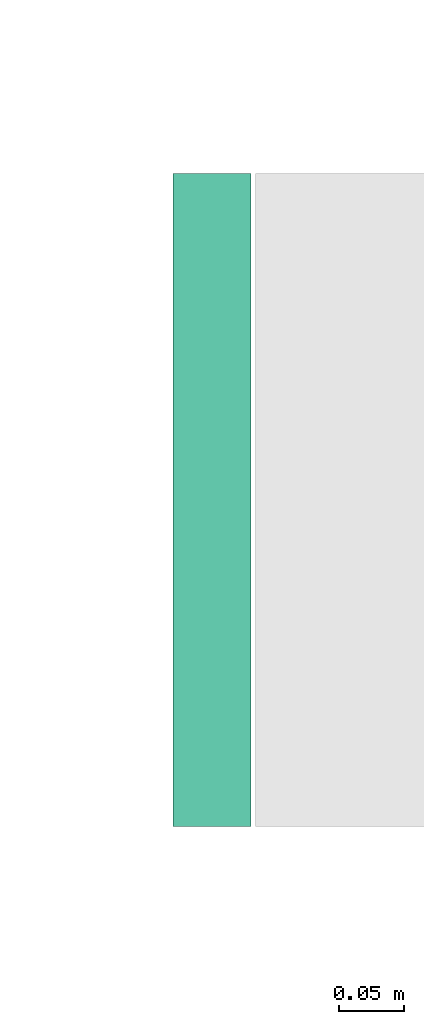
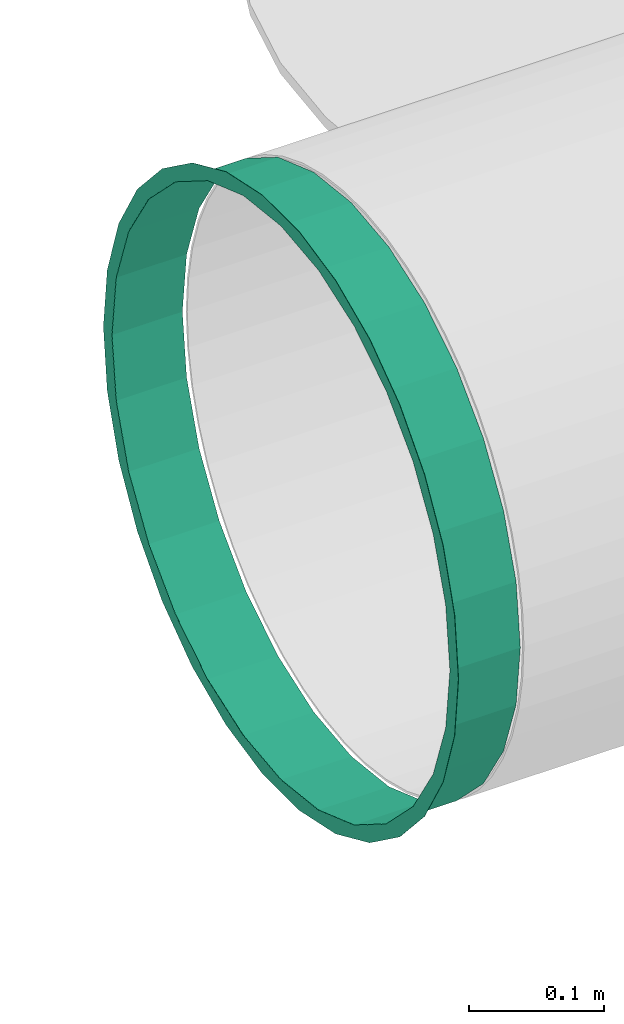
# One storey, part 5 of 31: 1 flow terminal.
"""IFC2X3 building model written with IfcOpenShell, lengths in millimetres."""

from ifc_helpers import new_model, entity, si_unit, converted_unit, derived_unit, direction, frame, origin_with_axes, place, context, subcontext, project, spatial, open_shell, surface_model, source, transform, mapped, type_object, element, save


model = new_model("IFC2X3")

# Units and contexts
model_context = context("Model", 3, precision=0.01, world=frame((0.0, 4.29681676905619e-09, 0.0)), true_north=direction((4.01073788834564e-13, 1.0)))
plan_context = context("Plan", 3, precision=0.01, world=frame((0.0, 4.29681676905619e-09, 0.0)), true_north=direction((4.01073788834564e-13, 1.0)))
body_context = subcontext(model_context, "Body", "Model", "MODEL_VIEW")
ifc_project = project(units=[converted_unit("PLANEANGLEUNIT", "DEGREE", entity("IfcPositiveLengthMeasure", 0.0174532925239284), si_unit("PLANEANGLEUNIT", "RADIAN"), dimensions=[0, 0, 0, 0, 0, 0, 0]), si_unit("AREAUNIT", "SQUARE_METRE"), si_unit("LENGTHUNIT", "METRE", prefix="MILLI"), si_unit("MASSUNIT", "GRAM", prefix="KILO"), si_unit("POWERUNIT", "WATT"), si_unit("PRESSUREUNIT", "PASCAL", prefix="KILO"), si_unit("FORCEUNIT", "NEWTON", prefix="KILO"), si_unit("ELECTRICVOLTAGEUNIT", "VOLT"), si_unit("ELECTRICCURRENTUNIT", "AMPERE"), si_unit("THERMODYNAMICTEMPERATUREUNIT", "DEGREE_CELSIUS"), si_unit("TIMEUNIT", "SECOND"), si_unit("VOLUMEUNIT", "CUBIC_METRE"), derived_unit("LINEARVELOCITYUNIT", [(si_unit("LENGTHUNIT", "METRE"), 1), (si_unit("TIMEUNIT", "SECOND"), -1)]), derived_unit("VOLUMETRICFLOWRATEUNIT", [(si_unit("VOLUMEUNIT", "CUBIC_METRE"), 1), (si_unit("TIMEUNIT", "SECOND"), -1)]), derived_unit("THERMALTRANSMITTANCEUNIT", [(si_unit("POWERUNIT", "WATT"), 1), (si_unit("THERMODYNAMICTEMPERATUREUNIT", "KELVIN"), -1), (si_unit("AREAUNIT", "SQUARE_METRE"), -1)]), derived_unit("SOUNDPRESSUREUNIT", [(si_unit("PRESSUREUNIT", "PASCAL"), 1)])], contexts=[model_context, plan_context])

# Site, building, storey
site_placement = place(None, frame((0.0, -4.29681676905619e-09, 0.0), z_axis=(0.0, 0.0, 1.0), x_axis=(1.0, 0.0, 0.0)))
site = spatial("IfcSite", under=ifc_project, at=site_placement, CompositionType="ELEMENT")
building_placement = place(site_placement, frame((0.0, 4.29681676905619e-09, 0.0), z_axis=(0.0, 0.0, 1.0), x_axis=(1.0, 0.0, 0.0)))
building = spatial("IfcBuilding", under=site, at=building_placement, Name="mc-building", CompositionType="ELEMENT")
storey_placement = place(building_placement, frame((0.0, 0.0, 210900.0), z_axis=(0.0, 0.0, 1.0), x_axis=(1.0, 0.0, 0.0)))
storey = spatial("IfcBuildingStorey", under=building, at=storey_placement, Name="Nivå F", CompositionType="ELEMENT", Elevation=210900.0)

# Flow terminal
air_terminal_type = type_object("IfcAirTerminalType", Name="EKO-NR-500-1-3", PredefinedType="NOTDEFINED")
shared_shape = source(origin_with_axes(), body_context, "Body", "SurfaceModel", [
    surface_model("IfcShellBasedSurfaceModel", [(60.1, -131.25, 227.33167), (60.1, -175.64678, 195.07552), (60.1, -155.87244, 195.45787), (60.1, -195.45787, 155.87244), (60.1, -108.47093, 225.24221), (60.1, -27.43872, 261.06199), (60.1, -81.11696, 249.65233), (60.1, -55.63023, 243.73198), (60.1, 0.0, 250.0), (60.1, -243.73198, 55.63023), (60.1, -256.76374, 54.57682), (60.1, -250.0, 0.0), (60.1, -239.80568, 106.76836), (60.1, -262.5, 0.0), (60.1, -212.36696, 154.29363), (60.1, -225.24221, 108.47093), (60.1, 27.43872, 261.06199), (60.1, 55.63023, 243.73198), (60.1, 81.11696, 249.65233), (60.1, 131.25, 227.33167), (60.1, 108.47093, 225.24221), (60.1, 155.87244, 195.45787), (60.1, 175.64678, 195.07552), (60.1, 195.45787, 155.87244), (60.1, 212.36696, 154.29363), (60.1, 225.24221, 108.47093), (60.1, 239.80568, 106.76836), (60.1, 243.73198, 55.63023), (60.1, 256.76374, 54.57682), (60.1, 250.0, 0.0), (60.1, 262.5, 0.0), (60.1, -256.76374, -54.57682), (60.1, -243.73198, -55.63023), (60.1, -239.80568, -106.76836), (60.1, -225.24221, -108.47093), (60.1, -212.36696, -154.29363), (60.1, -195.45787, -155.87244), (60.1, -175.64678, -195.07552), (60.1, -131.25, -227.33167), (60.1, -155.87244, -195.45787), (60.1, -108.47093, -225.24221), (60.1, -55.63023, -243.73198), (60.1, -81.11696, -249.65233), (60.1, -27.43872, -261.06199), (60.1, 0.0, -250.0), (60.1, 225.24221, -108.47093), (60.1, 195.45787, -155.87244), (60.1, 212.36696, -154.29363), (60.1, 175.64678, -195.07552), (60.1, 239.80568, -106.76836), (60.1, 256.76374, -54.57682), (60.1, 243.73198, -55.63023), (60.1, 55.63023, -243.73198), (60.1, 81.11696, -249.65233), (60.1, 108.47093, -225.24221), (60.1, 27.43872, -261.06199), (60.1, 155.87244, -195.45787), (60.1, 131.25, -227.33167), (59.9, -131.25, -227.33167), (59.9, -175.64678, -195.07552), (59.9, -155.87244, -195.45787), (59.9, -195.45787, -155.87244), (59.9, -108.47093, -225.24221), (59.9, -27.43872, -261.06199), (59.9, -81.11696, -249.65233), (59.9, -55.63023, -243.73198), (59.9, 0.0, -250.0), (59.9, -243.73198, -55.63023), (59.9, -256.76374, -54.57682), (59.9, -250.0, 0.0), (59.9, -239.80568, -106.76836), (59.9, -262.5, 0.0), (59.9, -212.36696, -154.29363), (59.9, -225.24221, -108.47093), (59.9, 27.43872, -261.06199), (59.9, 55.63023, -243.73198), (59.9, 81.11696, -249.65233), (59.9, 131.25, -227.33167), (59.9, 108.47093, -225.24221), (59.9, 155.87244, -195.45787), (59.9, 175.64678, -195.07552), (59.9, 195.45787, -155.87244), (59.9, 212.36696, -154.29363), (59.9, 225.24221, -108.47093), (59.9, 239.80568, -106.76836), (59.9, 243.73198, -55.63023), (59.9, 256.76374, -54.57682), (59.9, 250.0, 0.0), (59.9, 262.5, 0.0), (59.9, -256.76374, 54.57682), (59.9, -243.73198, 55.63023), (59.9, -239.80568, 106.76836), (59.9, -225.24221, 108.47093), (59.9, -212.36696, 154.29363), (59.9, -195.45787, 155.87244), (59.9, -175.64678, 195.07552), (59.9, -131.25, 227.33167), (59.9, -155.87244, 195.45787), (59.9, -108.47093, 225.24221), (59.9, -55.63023, 243.73198), (59.9, -81.11696, 249.65233), (59.9, -27.43872, 261.06199), (59.9, 0.0, 250.0), (59.9, 225.24221, 108.47093), (59.9, 195.45787, 155.87244), (59.9, 212.36696, 154.29363), (59.9, 175.64678, 195.07552), (59.9, 239.80568, 106.76836), (59.9, 256.76374, 54.57682), (59.9, 243.73198, 55.63023), (59.9, 55.63023, 243.73198), (59.9, 81.11696, 249.65233), (59.9, 108.47093, 225.24221), (59.9, 27.43872, 261.06199), (59.9, 155.87244, 195.45787), (59.9, 131.25, 227.33167), (60.0, 108.38415, -225.06203), (60.0, 108.47093, -225.24221), (60.0, 155.87244, -195.45787), (60.0, 155.74776, -195.30151), (60.0, 195.45787, -155.87244), (60.0, 0.0, -249.8), (60.0, 55.63023, -243.73198), (60.0, 55.58573, -243.53699), (60.0, 0.0, -250.0), (60.0, 243.73198, -55.63023), (60.0, 249.8, 0.0), (60.0, 243.53699, -55.58573), (60.0, 250.0, 0.0), (60.0, 225.24221, -108.47093), (60.0, 195.30151, -155.74776), (60.0, 225.06203, -108.38415), (60.0, -55.58573, -243.53699), (60.0, -55.63023, -243.73198), (60.0, -108.38415, -225.06203), (60.0, -108.47093, -225.24221), (60.0, -155.74776, -195.30151), (60.0, -155.87244, -195.45787), (60.0, -195.30151, -155.74776), (60.0, -195.45787, -155.87244), (60.0, -225.06203, -108.38415), (60.0, -225.24221, -108.47093), (60.0, -243.73198, -55.63023), (60.0, -243.53699, -55.58573), (60.0, -249.8, 0.0), (60.0, -250.0, 0.0), (60.0, 243.73198, 55.63023), (60.0, 243.53699, 55.58573), (60.0, 225.06203, 108.38415), (60.0, 225.24221, 108.47093), (60.0, 195.30151, 155.74776), (60.0, 195.45787, 155.87244), (60.0, 155.74776, 195.30151), (60.0, 108.38415, 225.06203), (60.0, 155.87244, 195.45787), (60.0, 108.47093, 225.24221), (60.0, 55.58573, 243.53699), (60.0, 55.63023, 243.73198), (60.0, 0.0, 249.8), (60.0, 0.0, 250.0), (60.0, -225.24221, 108.47093), (60.0, -225.06203, 108.38415), (60.0, -195.30151, 155.74776), (60.0, -195.45787, 155.87244), (60.0, -155.87244, 195.45787), (60.0, -243.53699, 55.58573), (60.0, -243.73198, 55.63023), (60.0, -55.58573, 243.53699), (60.0, -55.63023, 243.73198), (60.0, -108.38415, 225.06203), (60.0, -155.74776, 195.30151), (60.0, -108.47093, 225.24221), (0.0, 108.38415, 225.06203), (0.0, 108.47093, 225.24221), (0.0, 155.87244, 195.45787), (0.0, 155.74776, 195.30151), (0.0, 195.45787, 155.87244), (0.0, 0.0, 249.8), (0.0, 55.63023, 243.73198), (0.0, 55.58573, 243.53699), (0.0, 0.0, 250.0), (0.0, 243.73198, 55.63023), (0.0, 249.8, 0.0), (0.0, 243.53699, 55.58573), (0.0, 250.0, 0.0), (0.0, 225.24221, 108.47093), (0.0, 195.30151, 155.74776), (0.0, 225.06203, 108.38415), (0.0, -55.58573, 243.53699), (0.0, -55.63023, 243.73198), (0.0, -108.38415, 225.06203), (0.0, -108.47093, 225.24221), (0.0, -155.74776, 195.30151), (0.0, -155.87244, 195.45787), (0.0, -195.30151, 155.74776), (0.0, -195.45787, 155.87244), (0.0, -225.06203, 108.38415), (0.0, -225.24221, 108.47093), (0.0, -243.73198, 55.63023), (0.0, -243.53699, 55.58573), (0.0, -249.8, 0.0), (0.0, -250.0, 0.0), (0.0, 243.73198, -55.63023), (0.0, 243.53699, -55.58573), (0.0, 225.06203, -108.38415), (0.0, 225.24221, -108.47093), (0.0, 195.30151, -155.74776), (0.0, 195.45787, -155.87244), (0.0, 155.74776, -195.30151), (0.0, 108.38415, -225.06203), (0.0, 155.87244, -195.45787), (0.0, 108.47093, -225.24221), (0.0, 55.58573, -243.53699), (0.0, 55.63023, -243.73198), (0.0, 0.0, -249.8), (0.0, 0.0, -250.0), (0.0, -225.24221, -108.47093), (0.0, -225.06203, -108.38415), (0.0, -195.30151, -155.74776), (0.0, -195.45787, -155.87244), (0.0, -155.87244, -195.45787), (0.0, -243.53699, -55.58573), (0.0, -243.73198, -55.63023), (0.0, -55.58573, -243.53699), (0.0, -55.63023, -243.73198), (0.0, -108.38415, -225.06203), (0.0, -155.74776, -195.30151), (0.0, -108.47093, -225.24221)], [open_shell([[[0, 1, 2]], [[2, 1, 3]], [[0, 2, 4]], [[5, 6, 7]], [[4, 7, 6]], [[6, 0, 4]], [[8, 5, 7]], [[9, 10, 11]], [[10, 9, 12]], [[11, 10, 13]], [[3, 14, 15]], [[14, 3, 1]], [[15, 12, 9]], [[12, 15, 14]], [[16, 8, 17]], [[8, 16, 5]], [[16, 17, 18]], [[19, 18, 20]], [[20, 21, 19]], [[18, 17, 20]], [[19, 21, 22]], [[22, 23, 24]], [[22, 21, 23]], [[24, 25, 26]], [[25, 24, 23]], [[26, 27, 28]], [[27, 26, 25]], [[28, 29, 30]], [[29, 28, 27]], [[31, 32, 11]], [[32, 31, 33]], [[33, 34, 32]], [[34, 33, 35]], [[35, 36, 34]], [[36, 35, 37]], [[37, 38, 39]], [[39, 38, 40]], [[37, 39, 36]], [[41, 40, 42]], [[42, 43, 41]], [[40, 38, 42]], [[44, 41, 43]], [[45, 46, 47]], [[47, 46, 48]], [[45, 47, 49]], [[30, 29, 50]], [[51, 49, 50]], [[49, 51, 45]], [[29, 51, 50]], [[52, 53, 54]], [[53, 52, 55]], [[44, 55, 52]], [[55, 44, 43]], [[48, 56, 57]], [[56, 48, 46]], [[54, 57, 56]], [[57, 54, 53]], [[11, 13, 31]], [[58, 59, 60]], [[60, 59, 61]], [[58, 60, 62]], [[63, 64, 65]], [[62, 65, 64]], [[64, 58, 62]], [[66, 63, 65]], [[67, 68, 69]], [[68, 67, 70]], [[69, 68, 71]], [[61, 72, 73]], [[72, 61, 59]], [[73, 70, 67]], [[70, 73, 72]], [[74, 66, 75]], [[66, 74, 63]], [[74, 75, 76]], [[77, 76, 78]], [[78, 79, 77]], [[76, 75, 78]], [[77, 79, 80]], [[80, 81, 82]], [[80, 79, 81]], [[82, 83, 84]], [[83, 82, 81]], [[84, 85, 86]], [[85, 84, 83]], [[86, 87, 88]], [[87, 86, 85]], [[89, 90, 69]], [[90, 89, 91]], [[91, 92, 90]], [[92, 91, 93]], [[93, 94, 92]], [[94, 93, 95]], [[95, 96, 97]], [[97, 96, 98]], [[95, 97, 94]], [[99, 98, 100]], [[100, 101, 99]], [[98, 96, 100]], [[102, 99, 101]], [[103, 104, 105]], [[105, 104, 106]], [[103, 105, 107]], [[88, 87, 108]], [[109, 107, 108]], [[107, 109, 103]], [[87, 109, 108]], [[110, 111, 112]], [[111, 110, 113]], [[102, 113, 110]], [[113, 102, 101]], [[106, 114, 115]], [[114, 106, 104]], [[112, 115, 114]], [[115, 112, 111]], [[69, 71, 89]], [[11, 69, 9]], [[9, 90, 15]], [[2, 3, 94]], [[97, 4, 2]], [[92, 3, 15]], [[4, 98, 7]], [[3, 92, 94]], [[15, 90, 92]], [[9, 69, 90]], [[102, 8, 99]], [[7, 98, 99]], [[98, 4, 97]], [[2, 94, 97]], [[8, 7, 99]], [[112, 21, 20]], [[110, 20, 17]], [[109, 27, 25]], [[25, 23, 103]], [[104, 23, 21]], [[29, 27, 87]], [[114, 21, 112]], [[110, 17, 102]], [[112, 20, 110]], [[114, 104, 21]], [[104, 103, 23]], [[25, 103, 109]], [[109, 87, 27]], [[8, 102, 17]], [[29, 87, 51]], [[51, 85, 45]], [[56, 46, 81]], [[79, 54, 56]], [[83, 46, 45]], [[54, 78, 52]], [[46, 83, 81]], [[45, 85, 83]], [[51, 87, 85]], [[66, 44, 75]], [[52, 78, 75]], [[78, 54, 79]], [[56, 81, 79]], [[44, 52, 75]], [[41, 62, 40]], [[40, 60, 39]], [[67, 32, 34]], [[36, 73, 34]], [[36, 39, 61]], [[11, 32, 69]], [[65, 44, 66]], [[41, 65, 62]], [[40, 62, 60]], [[60, 61, 39]], [[61, 73, 36]], [[34, 73, 67]], [[67, 69, 32]], [[41, 44, 65]], [[68, 31, 71]], [[33, 68, 70]], [[70, 72, 35]], [[38, 59, 58]], [[58, 64, 42]], [[72, 59, 37]], [[64, 63, 43]], [[35, 33, 70]], [[33, 31, 68]], [[31, 13, 71]], [[42, 38, 58]], [[37, 59, 38]], [[37, 35, 72]], [[42, 64, 43]], [[63, 55, 43]], [[57, 76, 77]], [[77, 80, 57]], [[74, 76, 53]], [[84, 86, 49]], [[47, 82, 84]], [[48, 80, 82]], [[88, 30, 86]], [[53, 76, 57]], [[80, 48, 57]], [[53, 55, 74]], [[82, 47, 48]], [[84, 49, 47]], [[50, 49, 86]], [[30, 50, 86]], [[74, 55, 63]], [[108, 28, 88]], [[26, 108, 107]], [[107, 105, 24]], [[19, 106, 115]], [[115, 111, 18]], [[105, 106, 22]], [[111, 113, 16]], [[24, 26, 107]], [[26, 28, 108]], [[28, 30, 88]], [[18, 19, 115]], [[22, 106, 19]], [[22, 24, 105]], [[18, 111, 16]], [[113, 101, 16]], [[100, 96, 6]], [[100, 6, 101]], [[95, 0, 96]], [[91, 89, 12]], [[14, 93, 91]], [[93, 1, 95]], [[10, 89, 71]], [[95, 1, 0]], [[0, 6, 96]], [[5, 101, 6]], [[14, 1, 93]], [[91, 12, 14]], [[10, 12, 89]], [[71, 13, 10]], [[101, 5, 16]], [[116, 117, 118]], [[119, 118, 120]], [[116, 118, 119]], [[121, 122, 123]], [[122, 121, 124]], [[123, 122, 117]], [[117, 116, 123]], [[125, 126, 127]], [[126, 125, 128]], [[125, 127, 129]], [[120, 130, 119]], [[130, 120, 131]], [[129, 131, 120]], [[131, 129, 127]], [[124, 132, 133]], [[133, 132, 134]], [[135, 134, 136]], [[134, 135, 133]], [[137, 136, 138]], [[136, 137, 135]], [[124, 121, 132]], [[139, 138, 140]], [[138, 139, 137]], [[139, 140, 141]], [[142, 141, 143]], [[143, 144, 142]], [[143, 141, 140]], [[142, 144, 145]], [[128, 146, 147]], [[147, 146, 148]], [[148, 149, 150]], [[149, 148, 146]], [[150, 151, 152]], [[151, 150, 149]], [[153, 152, 154]], [[154, 152, 151]], [[153, 154, 155]], [[153, 155, 156]], [[157, 158, 156]], [[158, 157, 159]], [[155, 157, 156]], [[160, 161, 162]], [[163, 162, 164]], [[160, 162, 163]], [[145, 165, 166]], [[166, 165, 161]], [[160, 166, 161]], [[145, 144, 165]], [[167, 159, 168]], [[167, 168, 169]], [[170, 164, 162]], [[164, 170, 171]], [[169, 171, 170]], [[171, 169, 168]], [[158, 159, 167]], [[147, 126, 128]], [[172, 173, 174]], [[175, 174, 176]], [[172, 174, 175]], [[177, 178, 179]], [[178, 177, 180]], [[179, 178, 173]], [[173, 172, 179]], [[181, 182, 183]], [[182, 181, 184]], [[181, 183, 185]], [[176, 186, 175]], [[186, 176, 187]], [[185, 187, 176]], [[187, 185, 183]], [[180, 188, 189]], [[189, 188, 190]], [[191, 190, 192]], [[190, 191, 189]], [[193, 192, 194]], [[192, 193, 191]], [[180, 177, 188]], [[195, 194, 196]], [[194, 195, 193]], [[195, 196, 197]], [[198, 197, 199]], [[199, 200, 198]], [[199, 197, 196]], [[198, 200, 201]], [[184, 202, 203]], [[203, 202, 204]], [[204, 205, 206]], [[205, 204, 202]], [[206, 207, 208]], [[207, 206, 205]], [[209, 208, 210]], [[210, 208, 207]], [[209, 210, 211]], [[209, 211, 212]], [[213, 214, 212]], [[214, 213, 215]], [[211, 213, 212]], [[216, 217, 218]], [[219, 218, 220]], [[216, 218, 219]], [[201, 221, 222]], [[222, 221, 217]], [[216, 222, 217]], [[201, 200, 221]], [[223, 215, 224]], [[223, 224, 225]], [[226, 220, 218]], [[220, 226, 227]], [[225, 227, 226]], [[227, 225, 224]], [[214, 215, 223]], [[203, 182, 184]], [[222, 142, 201]], [[216, 141, 222]], [[137, 219, 220]], [[220, 227, 135]], [[216, 219, 139]], [[224, 133, 227]], [[139, 141, 216]], [[141, 142, 222]], [[142, 145, 201]], [[133, 135, 227]], [[137, 220, 135]], [[137, 139, 219]], [[133, 224, 124]], [[224, 215, 124]], [[215, 213, 122]], [[205, 202, 129]], [[120, 207, 205]], [[210, 207, 118]], [[125, 202, 184]], [[117, 211, 118]], [[211, 117, 122]], [[210, 118, 211]], [[211, 122, 213]], [[207, 120, 118]], [[205, 129, 120]], [[125, 129, 202]], [[184, 128, 125]], [[215, 122, 124]], [[181, 146, 184]], [[185, 149, 181]], [[154, 176, 174]], [[174, 173, 155]], [[185, 176, 151]], [[178, 157, 173]], [[151, 149, 185]], [[149, 146, 181]], [[146, 128, 184]], [[157, 155, 173]], [[154, 174, 155]], [[154, 151, 176]], [[157, 178, 159]], [[178, 180, 159]], [[171, 191, 193]], [[197, 198, 160]], [[163, 195, 197]], [[164, 193, 195]], [[201, 166, 198]], [[168, 159, 189]], [[189, 191, 168]], [[168, 191, 171]], [[164, 171, 193]], [[195, 163, 164]], [[197, 160, 163]], [[166, 160, 198]], [[201, 145, 166]], [[189, 159, 180]], [[200, 143, 221]], [[221, 140, 217]], [[226, 218, 136]], [[134, 225, 226]], [[138, 218, 217]], [[225, 132, 223]], [[217, 140, 138]], [[221, 143, 140]], [[200, 144, 143]], [[225, 134, 132]], [[134, 226, 136]], [[218, 138, 136]], [[121, 223, 132]], [[121, 214, 223]], [[123, 212, 214]], [[131, 203, 204]], [[204, 206, 130]], [[119, 206, 208]], [[182, 203, 127]], [[119, 209, 116]], [[212, 123, 116]], [[209, 119, 208]], [[209, 212, 116]], [[119, 130, 206]], [[130, 131, 204]], [[203, 131, 127]], [[127, 126, 182]], [[121, 123, 214]], [[182, 147, 183]], [[183, 148, 187]], [[175, 186, 152]], [[153, 172, 175]], [[150, 186, 187]], [[172, 156, 179]], [[187, 148, 150]], [[183, 147, 148]], [[182, 126, 147]], [[172, 153, 156]], [[153, 175, 152]], [[186, 150, 152]], [[158, 179, 156]], [[158, 177, 179]], [[192, 190, 169]], [[161, 199, 196]], [[196, 194, 162]], [[194, 192, 170]], [[199, 165, 200]], [[188, 158, 167]], [[167, 190, 188]], [[169, 190, 167]], [[192, 169, 170]], [[170, 162, 194]], [[162, 161, 196]], [[199, 161, 165]], [[165, 144, 200]], [[177, 158, 188]]])]),
])
flow_terminal_placement = place(storey_placement, frame((718690.97588, 439045.80698, 3950.0), z_axis=(0.0, 0.0, 1.0), x_axis=(-1.0, 0.0, 0.0)))
element("IfcFlowTerminal", 1, at=flow_terminal_placement, inside=storey, type_object=air_terminal_type, Name="EKO-NR-500-1-3", context=body_context, shape_type="MappedRepresentation", body=[
    mapped(shared_shape, transform((0.0, 0.0, 0.0), scale=1.0)),
])

save(model, "model.ifc")
